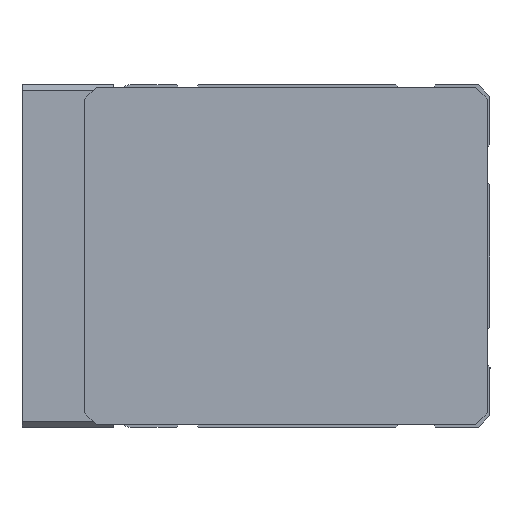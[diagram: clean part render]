
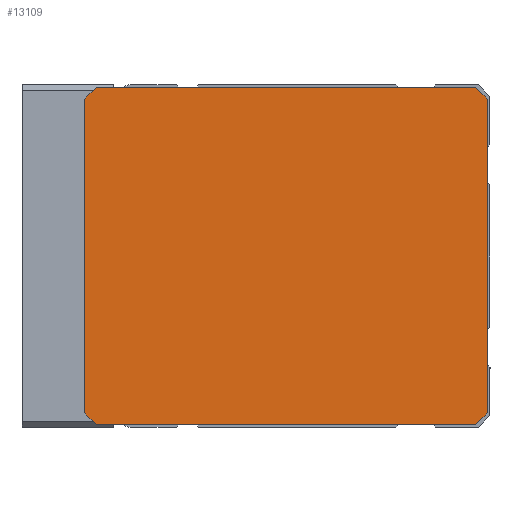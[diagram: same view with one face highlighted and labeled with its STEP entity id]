
A CAD part, left-side view. The second image highlights one B-rep face of the part: STEP entity #13109.
In plain terms, the highlighted planar face has unit normal (-1, 0, 0) as drawn and (0, 0, -1) by its records, which use the part's own axes.
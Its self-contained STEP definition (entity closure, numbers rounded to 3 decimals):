
#930=FACE_OUTER_BOUND('',#1688,.T.);
#1688=EDGE_LOOP('',(#8967,#8968,#8969,#8970,#8971,#8972,#8973,#8974));
#2690=LINE('',#18419,#3978);
#2693=LINE('',#18424,#3981);
#2695=LINE('',#18428,#3983);
#2697=LINE('',#18432,#3985);
#2699=LINE('',#18436,#3987);
#2701=LINE('',#18446,#3989);
#2704=LINE('',#18450,#3992);
#2705=LINE('',#18452,#3993);
#3978=VECTOR('',#15137,66.5);
#3981=VECTOR('',#15142,2.828);
#3983=VECTOR('',#15146,55.);
#3985=VECTOR('',#15150,2.828);
#3987=VECTOR('',#15154,66.5);
#3989=VECTOR('',#15164,55.);
#3992=VECTOR('',#15169,2.828);
#3993=VECTOR('',#15172,2.828);
#5609=VERTEX_POINT('',#18417);
#5610=VERTEX_POINT('',#18418);
#5611=VERTEX_POINT('',#18423);
#5612=VERTEX_POINT('',#18427);
#5613=VERTEX_POINT('',#18431);
#5614=VERTEX_POINT('',#18435);
#5617=VERTEX_POINT('',#18444);
#5618=VERTEX_POINT('',#18445);
#6952=EDGE_CURVE('',#5609,#5610,#2690,.T.);
#6955=EDGE_CURVE('',#5611,#5609,#2693,.T.);
#6957=EDGE_CURVE('',#5612,#5611,#2695,.T.);
#6959=EDGE_CURVE('',#5613,#5612,#2697,.T.);
#6961=EDGE_CURVE('',#5614,#5613,#2699,.T.);
#6965=EDGE_CURVE('',#5617,#5618,#2701,.T.);
#6968=EDGE_CURVE('',#5618,#5614,#2704,.T.);
#6969=EDGE_CURVE('',#5610,#5617,#2705,.T.);
#8967=ORIENTED_EDGE('',*,*,#6955,.T.);
#8968=ORIENTED_EDGE('',*,*,#6952,.T.);
#8969=ORIENTED_EDGE('',*,*,#6969,.T.);
#8970=ORIENTED_EDGE('',*,*,#6965,.T.);
#8971=ORIENTED_EDGE('',*,*,#6968,.T.);
#8972=ORIENTED_EDGE('',*,*,#6961,.T.);
#8973=ORIENTED_EDGE('',*,*,#6959,.T.);
#8974=ORIENTED_EDGE('',*,*,#6957,.T.);
#12661=PLANE('',#13991);
#13109=ADVANCED_FACE('',(#930),#12661,.T.);
#13991=AXIS2_PLACEMENT_3D('',#18453,#15173,#15174);
#15137=DIRECTION('',(0.,-1.,0.));
#15142=DIRECTION('',(0.707,-0.707,0.));
#15146=DIRECTION('',(1.,0.,0.));
#15150=DIRECTION('',(0.707,0.707,0.));
#15154=DIRECTION('',(0.,1.,0.));
#15164=DIRECTION('',(-1.,0.,0.));
#15169=DIRECTION('',(-0.707,0.707,0.));
#15172=DIRECTION('',(-0.707,-0.707,0.));
#15173=DIRECTION('center_axis',(0.,0.,
-1.));
#15174=DIRECTION('ref_axis',(-1.,0.,0.));
#18417=CARTESIAN_POINT('',(0.5,69.,-940.));
#18418=CARTESIAN_POINT('',(0.5,2.5,-940.));
#18419=CARTESIAN_POINT('',(0.5,69.,-940.));
#18423=CARTESIAN_POINT('',(-1.5,71.,-940.));
#18424=CARTESIAN_POINT('',(-1.5,71.,-940.));
#18427=CARTESIAN_POINT('',(-56.5,71.,-940.));
#18428=CARTESIAN_POINT('',(-56.5,71.,-940.));
#18431=CARTESIAN_POINT('',(-58.5,69.,-940.));
#18432=CARTESIAN_POINT('',(-58.5,69.,-940.));
#18435=CARTESIAN_POINT('',(-58.5,2.5,-940.));
#18436=CARTESIAN_POINT('',(-58.5,2.5,-940.));
#18444=CARTESIAN_POINT('',(-1.5,0.5,-940.));
#18445=CARTESIAN_POINT('',(-56.5,0.5,-940.));
#18446=CARTESIAN_POINT('',(-1.5,0.5,-940.));
#18450=CARTESIAN_POINT('',(-56.5,0.5,-940.));
#18452=CARTESIAN_POINT('',(0.5,2.5,-940.));
#18453=CARTESIAN_POINT('Origin',(-174.931,117.937,-940.));
